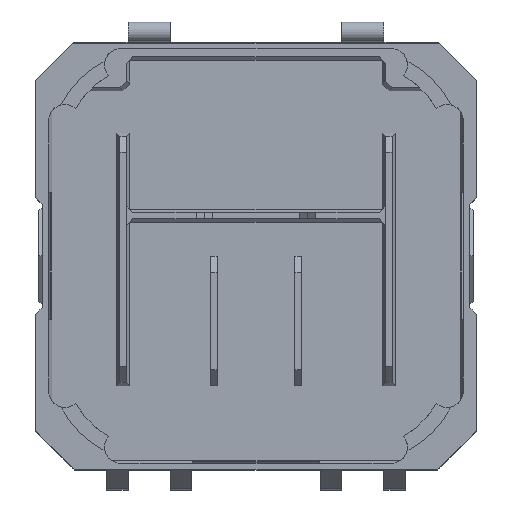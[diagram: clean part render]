
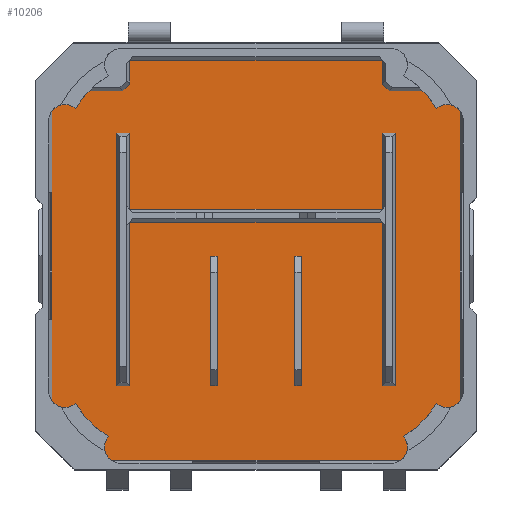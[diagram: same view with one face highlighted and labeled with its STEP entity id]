
A CAD part, top view. The second image highlights one B-rep face of the part: STEP entity #10206.
In plain terms, the highlighted planar face has unit normal (0, 0, 1).
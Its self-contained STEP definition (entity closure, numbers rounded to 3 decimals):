
#252=FACE_BOUND('',#1228,.T.);
#253=FACE_BOUND('',#1229,.T.);
#254=FACE_BOUND('',#1230,.T.);
#637=FACE_OUTER_BOUND('',#1227,.T.);
#1227=EDGE_LOOP('',(#6987,#6988,#6989,#6990,#6991,#6992,#6993,#6994,#6995,
#6996,#6997,#6998));
#1228=EDGE_LOOP('',(#6999,#7000,#7001,#7002));
#1229=EDGE_LOOP('',(#7003,#7004,#7005,#7006,#7007,#7008,#7009,#7010,#7011,
#7012,#7013,#7014));
#1230=EDGE_LOOP('',(#7015,#7016,#7017,#7018));
#1928=LINE('',#14683,#3104);
#1937=LINE('',#14702,#3113);
#2000=LINE('',#14831,#3176);
#2009=LINE('',#14847,#3185);
#2010=LINE('',#14849,#3186);
#2011=LINE('',#14851,#3187);
#2012=LINE('',#14853,#3188);
#2013=LINE('',#14855,#3189);
#2014=LINE('',#14857,#3190);
#2015=LINE('',#14859,#3191);
#2016=LINE('',#14861,#3192);
#2017=LINE('',#14863,#3193);
#2018=LINE('',#14865,#3194);
#2019=LINE('',#14867,#3195);
#2020=LINE('',#14868,#3196);
#2021=LINE('',#14871,#3197);
#2022=LINE('',#14872,#3198);
#2023=LINE('',#14873,#3199);
#2024=LINE('',#14876,#3200);
#2025=LINE('',#14877,#3201);
#2026=LINE('',#14878,#3202);
#2027=LINE('',#14880,#3203);
#2028=LINE('',#14882,#3204);
#2029=LINE('',#14884,#3205);
#2030=LINE('',#14886,#3206);
#2031=LINE('',#14888,#3207);
#2032=LINE('',#14890,#3208);
#2033=LINE('',#14891,#3209);
#2034=LINE('',#14894,#3210);
#2035=LINE('',#14896,#3211);
#2036=LINE('',#14898,#3212);
#2037=LINE('',#14899,#3213);
#3104=VECTOR('',#11739,10.);
#3113=VECTOR('',#11752,10.);
#3176=VECTOR('',#11843,10.);
#3185=VECTOR('',#11858,10.);
#3186=VECTOR('',#11859,10.);
#3187=VECTOR('',#11860,10.);
#3188=VECTOR('',#11861,10.);
#3189=VECTOR('',#11862,10.);
#3190=VECTOR('',#11863,10.);
#3191=VECTOR('',#11864,10.);
#3192=VECTOR('',#11865,10.);
#3193=VECTOR('',#11866,10.);
#3194=VECTOR('',#11867,10.);
#3195=VECTOR('',#11868,10.);
#3196=VECTOR('',#11869,10.);
#3197=VECTOR('',#11870,10.);
#3198=VECTOR('',#11871,10.);
#3199=VECTOR('',#11872,10.);
#3200=VECTOR('',#11873,10.);
#3201=VECTOR('',#11874,10.);
#3202=VECTOR('',#11875,10.);
#3203=VECTOR('',#11876,10.);
#3204=VECTOR('',#11877,10.);
#3205=VECTOR('',#11878,10.);
#3206=VECTOR('',#11879,10.);
#3207=VECTOR('',#11880,10.);
#3208=VECTOR('',#11881,10.);
#3209=VECTOR('',#11882,10.);
#3210=VECTOR('',#11883,10.);
#3211=VECTOR('',#11884,10.);
#3212=VECTOR('',#11885,10.);
#3213=VECTOR('',#11886,10.);
#4313=VERTEX_POINT('',#14680);
#4314=VERTEX_POINT('',#14682);
#4321=VERTEX_POINT('',#14699);
#4322=VERTEX_POINT('',#14701);
#4373=VERTEX_POINT('',#14829);
#4374=VERTEX_POINT('',#14830);
#4377=VERTEX_POINT('',#14845);
#4378=VERTEX_POINT('',#14846);
#4379=VERTEX_POINT('',#14848);
#4380=VERTEX_POINT('',#14850);
#4381=VERTEX_POINT('',#14852);
#4382=VERTEX_POINT('',#14854);
#4383=VERTEX_POINT('',#14856);
#4384=VERTEX_POINT('',#14858);
#4385=VERTEX_POINT('',#14860);
#4386=VERTEX_POINT('',#14862);
#4387=VERTEX_POINT('',#14864);
#4388=VERTEX_POINT('',#14866);
#4389=VERTEX_POINT('',#14869);
#4390=VERTEX_POINT('',#14870);
#4391=VERTEX_POINT('',#14874);
#4392=VERTEX_POINT('',#14875);
#4393=VERTEX_POINT('',#14879);
#4394=VERTEX_POINT('',#14881);
#4395=VERTEX_POINT('',#14883);
#4396=VERTEX_POINT('',#14885);
#4397=VERTEX_POINT('',#14887);
#4398=VERTEX_POINT('',#14889);
#4399=VERTEX_POINT('',#14892);
#4400=VERTEX_POINT('',#14893);
#4401=VERTEX_POINT('',#14895);
#4402=VERTEX_POINT('',#14897);
#5367=EDGE_CURVE('',#4313,#4314,#1928,.T.);
#5376=EDGE_CURVE('',#4321,#4322,#1937,.T.);
#5439=EDGE_CURVE('',#4373,#4374,#2000,.T.);
#5448=EDGE_CURVE('',#4377,#4378,#2009,.T.);
#5449=EDGE_CURVE('',#4379,#4377,#2010,.T.);
#5450=EDGE_CURVE('',#4380,#4379,#2011,.F.);
#5451=EDGE_CURVE('',#4381,#4380,#2012,.T.);
#5452=EDGE_CURVE('',#4382,#4381,#2013,.T.);
#5453=EDGE_CURVE('',#4383,#4382,#2014,.T.);
#5454=EDGE_CURVE('',#4384,#4383,#2015,.T.);
#5455=EDGE_CURVE('',#4385,#4384,#2016,.T.);
#5456=EDGE_CURVE('',#4386,#4385,#2017,.T.);
#5457=EDGE_CURVE('',#4387,#4386,#2018,.T.);
#5458=EDGE_CURVE('',#4388,#4387,#2019,.F.);
#5459=EDGE_CURVE('',#4378,#4388,#2020,.T.);
#5460=EDGE_CURVE('',#4389,#4390,#2021,.T.);
#5461=EDGE_CURVE('',#4390,#4373,#2022,.T.);
#5462=EDGE_CURVE('',#4374,#4389,#2023,.T.);
#5463=EDGE_CURVE('',#4391,#4392,#2024,.T.);
#5464=EDGE_CURVE('',#4314,#4391,#2025,.T.);
#5465=EDGE_CURVE('',#4322,#4313,#2026,.T.);
#5466=EDGE_CURVE('',#4393,#4321,#2027,.T.);
#5467=EDGE_CURVE('',#4394,#4393,#2028,.T.);
#5468=EDGE_CURVE('',#4395,#4394,#2029,.T.);
#5469=EDGE_CURVE('',#4396,#4395,#2030,.T.);
#5470=EDGE_CURVE('',#4397,#4396,#2031,.T.);
#5471=EDGE_CURVE('',#4398,#4397,#2032,.T.);
#5472=EDGE_CURVE('',#4392,#4398,#2033,.T.);
#5473=EDGE_CURVE('',#4399,#4400,#2034,.T.);
#5474=EDGE_CURVE('',#4400,#4401,#2035,.T.);
#5475=EDGE_CURVE('',#4401,#4402,#2036,.T.);
#5476=EDGE_CURVE('',#4402,#4399,#2037,.T.);
#6987=ORIENTED_EDGE('',*,*,#5448,.F.);
#6988=ORIENTED_EDGE('',*,*,#5449,.F.);
#6989=ORIENTED_EDGE('',*,*,#5450,.F.);
#6990=ORIENTED_EDGE('',*,*,#5451,.F.);
#6991=ORIENTED_EDGE('',*,*,#5452,.F.);
#6992=ORIENTED_EDGE('',*,*,#5453,.F.);
#6993=ORIENTED_EDGE('',*,*,#5454,.F.);
#6994=ORIENTED_EDGE('',*,*,#5455,.F.);
#6995=ORIENTED_EDGE('',*,*,#5456,.F.);
#6996=ORIENTED_EDGE('',*,*,#5457,.F.);
#6997=ORIENTED_EDGE('',*,*,#5458,.F.);
#6998=ORIENTED_EDGE('',*,*,#5459,.F.);
#6999=ORIENTED_EDGE('',*,*,#5460,.T.);
#7000=ORIENTED_EDGE('',*,*,#5461,.T.);
#7001=ORIENTED_EDGE('',*,*,#5439,.T.);
#7002=ORIENTED_EDGE('',*,*,#5462,.T.);
#7003=ORIENTED_EDGE('',*,*,#5463,.F.);
#7004=ORIENTED_EDGE('',*,*,#5464,.F.);
#7005=ORIENTED_EDGE('',*,*,#5367,.F.);
#7006=ORIENTED_EDGE('',*,*,#5465,.F.);
#7007=ORIENTED_EDGE('',*,*,#5376,.F.);
#7008=ORIENTED_EDGE('',*,*,#5466,.F.);
#7009=ORIENTED_EDGE('',*,*,#5467,.F.);
#7010=ORIENTED_EDGE('',*,*,#5468,.F.);
#7011=ORIENTED_EDGE('',*,*,#5469,.F.);
#7012=ORIENTED_EDGE('',*,*,#5470,.F.);
#7013=ORIENTED_EDGE('',*,*,#5471,.F.);
#7014=ORIENTED_EDGE('',*,*,#5472,.F.);
#7015=ORIENTED_EDGE('',*,*,#5473,.T.);
#7016=ORIENTED_EDGE('',*,*,#5474,.T.);
#7017=ORIENTED_EDGE('',*,*,#5475,.T.);
#7018=ORIENTED_EDGE('',*,*,#5476,.T.);
#9785=PLANE('',#10821);
#10206=ADVANCED_FACE('',(#637,#252,#253,#254),#9785,.F.);
#10821=AXIS2_PLACEMENT_3D('',#14844,#11856,#11857);
#11739=DIRECTION('',(0.,-1.,0.));
#11752=DIRECTION('',(0.,1.,0.));
#11843=DIRECTION('',(0.,-1.,0.));
#11856=DIRECTION('center_axis',(0.,0.,-1.));
#11857=DIRECTION('ref_axis',(1.,0.,0.));
#11858=DIRECTION('',(1.,0.,0.));
#11859=DIRECTION('',(0.,1.,0.));
#11860=DIRECTION('',(-0.707,-0.707,0.));
#11861=DIRECTION('',(1.,0.,0.));
#11862=DIRECTION('',(0.,1.,0.));
#11863=DIRECTION('',(-0.707,0.707,0.));
#11864=DIRECTION('',(-1.,0.,0.));
#11865=DIRECTION('',(-0.707,-0.707,0.));
#11866=DIRECTION('',(0.,-1.,0.));
#11867=DIRECTION('',(1.,0.,0.));
#11868=DIRECTION('',(-0.707,0.707,0.));
#11869=DIRECTION('',(0.,-1.,0.));
#11870=DIRECTION('',(0.,1.,0.));
#11871=DIRECTION('',(1.,0.,0.));
#11872=DIRECTION('',(-1.,0.,0.));
#11873=DIRECTION('',(0.,1.,0.));
#11874=DIRECTION('',(1.,0.,0.));
#11875=DIRECTION('',(-1.,0.,0.));
#11876=DIRECTION('',(-1.,0.,0.));
#11877=DIRECTION('',(0.,-1.,0.));
#11878=DIRECTION('',(-1.,0.,0.));
#11879=DIRECTION('',(0.,1.,0.));
#11880=DIRECTION('',(1.,0.,0.));
#11881=DIRECTION('',(0.,-1.,0.));
#11882=DIRECTION('',(1.,0.,0.));
#11883=DIRECTION('',(0.,-1.,0.));
#11884=DIRECTION('',(-1.,0.,0.));
#11885=DIRECTION('',(0.,1.,0.));
#11886=DIRECTION('',(1.,0.,0.));
#14680=CARTESIAN_POINT('',(-43.,38.,-32.5));
#14682=CARTESIAN_POINT('',(-43.,-40.,-32.5));
#14683=CARTESIAN_POINT('',(-43.,18.5,-32.5));
#14699=CARTESIAN_POINT('',(-39.,14.5,-32.5));
#14701=CARTESIAN_POINT('',(-39.,38.,-32.5));
#14702=CARTESIAN_POINT('',(-39.,6.75,-32.5));
#14829=CARTESIAN_POINT('',(-12.,0.,-32.5));
#14830=CARTESIAN_POINT('',(-12.,-40.,-32.5));
#14831=CARTESIAN_POINT('',(-12.,-20.,-32.5));
#14844=CARTESIAN_POINT('Origin',(0.,0.,-32.5));
#14845=CARTESIAN_POINT('',(-39.,60.5,-32.5));
#14846=CARTESIAN_POINT('',(39.,60.5,-32.5));
#14847=CARTESIAN_POINT('',(-20.,60.5,-32.5));
#14848=CARTESIAN_POINT('',(-39.,53.133,-32.5));
#14849=CARTESIAN_POINT('',(-39.,6.75,-32.5));
#14850=CARTESIAN_POINT('',(-41.133,51.,-32.5));
#14851=CARTESIAN_POINT('',(-43.067,49.067,-32.5));
#14852=CARTESIAN_POINT('',(-63.,51.,-32.5));
#14853=CARTESIAN_POINT('',(-32.,51.,-32.5));
#14854=CARTESIAN_POINT('',(-63.,-51.586,-32.5));
#14855=CARTESIAN_POINT('',(-63.,-32.,-32.5));
#14856=CARTESIAN_POINT('',(-51.586,-63.,-32.5));
#14857=CARTESIAN_POINT('',(-54.293,-60.293,-32.5));
#14858=CARTESIAN_POINT('',(51.586,-63.,-32.5));
#14859=CARTESIAN_POINT('',(32.,-63.,-32.5));
#14860=CARTESIAN_POINT('',(63.,-51.586,-32.5));
#14861=CARTESIAN_POINT('',(60.293,-54.293,-32.5));
#14862=CARTESIAN_POINT('',(63.,51.,-32.5));
#14863=CARTESIAN_POINT('',(63.,32.,-32.5));
#14864=CARTESIAN_POINT('',(41.133,51.,-32.5));
#14865=CARTESIAN_POINT('',(20.,51.,-32.5));
#14866=CARTESIAN_POINT('',(39.,53.133,-32.5));
#14867=CARTESIAN_POINT('',(43.067,49.067,-32.5));
#14868=CARTESIAN_POINT('',(39.,30.75,-32.5));
#14869=CARTESIAN_POINT('',(-14.,-40.,-32.5));
#14870=CARTESIAN_POINT('',(-14.,0.,-32.5));
#14871=CARTESIAN_POINT('',(-14.,0.,-32.5));
#14872=CARTESIAN_POINT('',(-6.,0.,-32.5));
#14873=CARTESIAN_POINT('',(-7.,-40.,-32.5));
#14874=CARTESIAN_POINT('',(-39.,-40.,-32.5));
#14875=CARTESIAN_POINT('',(-39.,10.5,-32.5));
#14876=CARTESIAN_POINT('',(-39.,-30.75,-32.5));
#14877=CARTESIAN_POINT('',(-21.,-40.,-32.5));
#14878=CARTESIAN_POINT('',(-20.,38.,-32.5));
#14879=CARTESIAN_POINT('',(39.,14.5,-32.5));
#14880=CARTESIAN_POINT('',(20.,14.5,-32.5));
#14881=CARTESIAN_POINT('',(39.,38.,-32.5));
#14882=CARTESIAN_POINT('',(39.,30.75,-32.5));
#14883=CARTESIAN_POINT('',(43.,38.,-32.5));
#14884=CARTESIAN_POINT('',(21.,38.,-32.5));
#14885=CARTESIAN_POINT('',(43.,-40.,-32.5));
#14886=CARTESIAN_POINT('',(43.,-19.5,-32.5));
#14887=CARTESIAN_POINT('',(39.,-40.,-32.5));
#14888=CARTESIAN_POINT('',(20.,-40.,-32.5));
#14889=CARTESIAN_POINT('',(39.,10.5,-32.5));
#14890=CARTESIAN_POINT('',(39.,-6.75,-32.5));
#14891=CARTESIAN_POINT('',(-20.,10.5,-32.5));
#14892=CARTESIAN_POINT('',(14.,0.,-32.5));
#14893=CARTESIAN_POINT('',(14.,-40.,-32.5));
#14894=CARTESIAN_POINT('',(14.,-20.,-32.5));
#14895=CARTESIAN_POINT('',(12.,-40.,-32.5));
#14896=CARTESIAN_POINT('',(6.,-40.,-32.5));
#14897=CARTESIAN_POINT('',(12.,0.,-32.5));
#14898=CARTESIAN_POINT('',(12.,0.,-32.5));
#14899=CARTESIAN_POINT('',(7.,0.,-32.5));
